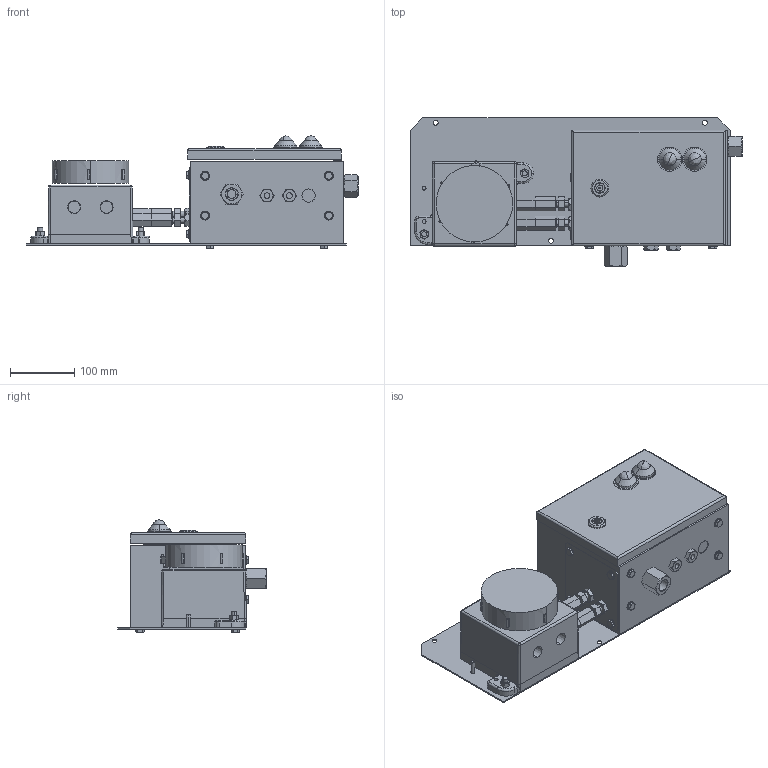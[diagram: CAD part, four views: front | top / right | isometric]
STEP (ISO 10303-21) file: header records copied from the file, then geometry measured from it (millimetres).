
FILE_DESCRIPTION (( 'STEP AP203' ), '1' );
FILE_NAME ('plcb1x.STEP', '2013-12-09T15:36:55', ( 'User' ), ( 'Pentair Inc' ), 'SwSTEP 2.0', 'SolidWorks 2010', '' );
FILE_SCHEMA (( 'CONFIG_CONTROL_DESIGN' ));
Length unit declared in the file: inch
Products named in the file (1): plcb1x
Bounding box: 518 x 232 x 175.23 mm (x, y, z)
Surface area: 575624.1 mm2 (no closed solid volume)
Topology: 0 solids, 77 shells, 535 faces, 1443 edges, 969 vertices
Faces by surface type: plane 244, cylinder 179, cone 91, bspline 21
Entity records: 18239 total; most frequent: CARTESIAN_POINT 5410, DIRECTION 2639, ORIENTED_EDGE 2354, EDGE_CURVE 1443, AXIS2_PLACEMENT_3D 989, VERTEX_POINT 969, LINE 661, VECTOR 661
